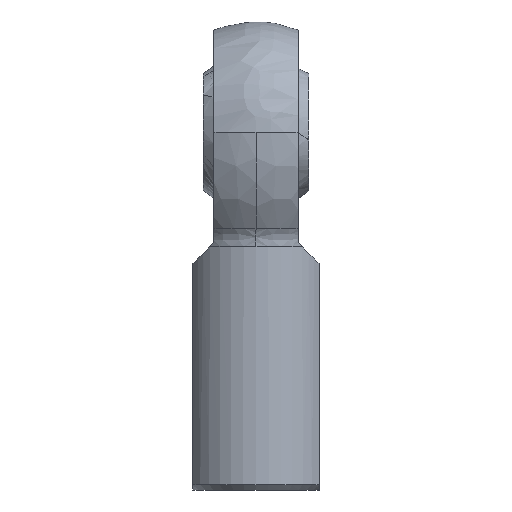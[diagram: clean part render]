
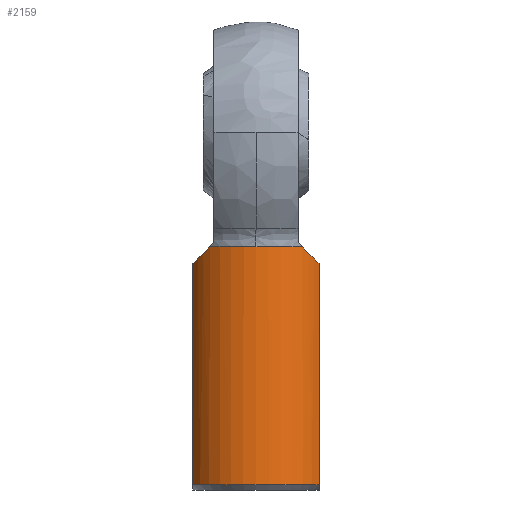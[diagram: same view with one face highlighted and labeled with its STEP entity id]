
A CAD part, left-side view. The second image highlights one B-rep face of the part: STEP entity #2159.
In plain terms, the highlighted cylindrical face has radius 11.113 mm (diameter 22.225 mm), a partial arc.
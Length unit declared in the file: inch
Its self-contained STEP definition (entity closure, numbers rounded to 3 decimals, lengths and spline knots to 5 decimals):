
#98 = CARTESIAN_POINT ( 'NONE',  ( 0., 0., 0.03 ) ) ;
#105 = EDGE_CURVE ( 'NONE', #3157, #3739, #2213, .T. ) ;
#113 = AXIS2_PLACEMENT_3D ( 'NONE', #3062, #3784, #3128 ) ;
#260 = CIRCLE ( 'NONE', #1468, 0.4375 ) ;
#379 = ORIENTED_EDGE ( 'NONE', *, *, #950, .F. ) ;
#389 = ORIENTED_EDGE ( 'NONE', *, *, #896, .T. ) ;
#469 = CARTESIAN_POINT ( 'NONE',  ( -0.22535, 0.375, 1.344 ) ) ;
#620 = VERTEX_POINT ( 'NONE', #469 ) ;
#712 = ORIENTED_EDGE ( 'NONE', *, *, #3619, .T. ) ;
#731 = EDGE_CURVE ( 'NONE', #3157, #620, #872, .T. ) ;
#769 = DIRECTION ( 'NONE',  ( 1., 0., 0. ) ) ;
#808 = CARTESIAN_POINT ( 'NONE',  ( -0.34013, 0.27516, 1.44384 ) ) ;
#812 = DIRECTION ( 'NONE',  ( 0., 0., 1. ) ) ;
#841 = AXIS2_PLACEMENT_3D ( 'NONE', #2687, #812, #769 ) ;
#872 = LINE ( 'NONE', #2460, #2681 ) ;
#896 = EDGE_CURVE ( 'NONE', #3228, #2964, #1247, .T. ) ;
#950 = EDGE_CURVE ( 'NONE', #1495, #3739, #2745, .T. ) ;
#1124 = VERTEX_POINT ( 'NONE', #808 ) ;
#1196 = CARTESIAN_POINT ( 'NONE',  ( -0.26926, 0.34861, 1.37039 ) ) ;
#1247 = CIRCLE ( 'NONE', #113, 0.4375 ) ;
#1384 = VECTOR ( 'NONE', #2533, 39.37008 ) ;
#1402 = CYLINDRICAL_SURFACE ( 'NONE', #841, 0.4375 ) ;
#1468 = AXIS2_PLACEMENT_3D ( 'NONE', #3844, #3126, #2207 ) ;
#1495 = VERTEX_POINT ( 'NONE', #2162 ) ;
#1631 = ORIENTED_EDGE ( 'NONE', *, *, #3775, .T. ) ;
#1812 = CARTESIAN_POINT ( 'NONE',  ( -0.34013, 0.27516, 1.44384 ) ) ;
#1959 = CARTESIAN_POINT ( 'NONE',  ( -0.22535, -0.375, 1.344 ) ) ;
#2144 = AXIS2_PLACEMENT_3D ( 'NONE', #98, #2653, #2284 ) ;
#2159 = ADVANCED_FACE ( 'NONE', ( #2990 ), #1402, .T. ) ;
#2162 = CARTESIAN_POINT ( 'NONE',  ( -0.22535, -0.375, 1.344 ) ) ;
#2207 = DIRECTION ( 'NONE',  ( 1., 0., 0. ) ) ;
#2213 = CIRCLE ( 'NONE', #2144, 0.4375 ) ;
#2262 = ORIENTED_EDGE ( 'NONE', *, *, #731, .F. ) ;
#2264 = CARTESIAN_POINT ( 'NONE',  ( -0.30791, -0.31499, 1.40401 ) ) ;
#2284 = DIRECTION ( 'NONE',  ( 1., 0., 0. ) ) ;
#2316 = ORIENTED_EDGE ( 'NONE', *, *, #105, .T. ) ;
#2343 = CARTESIAN_POINT ( 'NONE',  ( -0.4375, 0., 1.44384 ) ) ;
#2433 = CARTESIAN_POINT ( 'NONE',  ( -0.22535, -0.375, 0.82817 ) ) ;
#2460 = CARTESIAN_POINT ( 'NONE',  ( -0.22535, 0.375, 0.82817 ) ) ;
#2533 = DIRECTION ( 'NONE',  ( 0., 0., -1. ) ) ;
#2642 = CARTESIAN_POINT ( 'NONE',  ( -0.22535, -0.375, 0.03 ) ) ;
#2653 = DIRECTION ( 'NONE',  ( 0., 0., 1. ) ) ;
#2681 = VECTOR ( 'NONE', #3089, 39.37008 ) ;
#2687 = CARTESIAN_POINT ( 'NONE',  ( 0., 0., 0.72192 ) ) ;
#2731 =( BOUNDED_CURVE ( )  B_SPLINE_CURVE ( 3, ( #1812, #3071, #1196, #4052 ),
 .UNSPECIFIED., .F., .T. ) 
 B_SPLINE_CURVE_WITH_KNOTS ( ( 4, 4 ),
 ( 2.25099, 2.60049 ),
 .UNSPECIFIED. ) 
 CURVE ( )  GEOMETRIC_REPRESENTATION_ITEM ( )  RATIONAL_B_SPLINE_CURVE ( ( 1., 0.99, 0.99, 1. ) ) 
 REPRESENTATION_ITEM ( '' )  );
#2745 = LINE ( 'NONE', #2433, #1384 ) ;
#2860 = CARTESIAN_POINT ( 'NONE',  ( -0.34013, -0.27516, 1.44384 ) ) ;
#2945 = CARTESIAN_POINT ( 'NONE',  ( -0.26926, -0.34861, 1.37039 ) ) ;
#2964 = VERTEX_POINT ( 'NONE', #2343 ) ;
#2987 = EDGE_LOOP ( 'NONE', ( #1631, #2262, #2316, #379, #3150, #389, #712 ) ) ;
#2990 = FACE_OUTER_BOUND ( 'NONE', #2987, .T. ) ;
#3062 = CARTESIAN_POINT ( 'NONE',  ( 0., 0., 1.44384 ) ) ;
#3071 = CARTESIAN_POINT ( 'NONE',  ( -0.30791, 0.31499, 1.40401 ) ) ;
#3089 = DIRECTION ( 'NONE',  ( 0., 0., 1. ) ) ;
#3126 = DIRECTION ( 'NONE',  ( 0., 0., -1. ) ) ;
#3128 = DIRECTION ( 'NONE',  ( 1., 0., 0. ) ) ;
#3150 = ORIENTED_EDGE ( 'NONE', *, *, #3415, .T. ) ;
#3157 = VERTEX_POINT ( 'NONE', #4022 ) ;
#3228 = VERTEX_POINT ( 'NONE', #3401 ) ;
#3401 = CARTESIAN_POINT ( 'NONE',  ( -0.34013, -0.27516, 1.44384 ) ) ;
#3415 = EDGE_CURVE ( 'NONE', #1495, #3228, #3444, .T. ) ;
#3444 =( BOUNDED_CURVE ( )  B_SPLINE_CURVE ( 3, ( #1959, #2945, #2264, #2860 ),
 .UNSPECIFIED., .F., .T. ) 
 B_SPLINE_CURVE_WITH_KNOTS ( ( 4, 4 ),
 ( 3.68269, 4.03219 ),
 .UNSPECIFIED. ) 
 CURVE ( )  GEOMETRIC_REPRESENTATION_ITEM ( )  RATIONAL_B_SPLINE_CURVE ( ( 1., 0.99, 0.99, 1. ) ) 
 REPRESENTATION_ITEM ( '' )  );
#3619 = EDGE_CURVE ( 'NONE', #2964, #1124, #260, .T. ) ;
#3739 = VERTEX_POINT ( 'NONE', #2642 ) ;
#3775 = EDGE_CURVE ( 'NONE', #1124, #620, #2731, .T. ) ;
#3784 = DIRECTION ( 'NONE',  ( 0., 0., -1. ) ) ;
#3844 = CARTESIAN_POINT ( 'NONE',  ( 0., 0., 1.44384 ) ) ;
#4022 = CARTESIAN_POINT ( 'NONE',  ( -0.22535, 0.375, 0.03 ) ) ;
#4052 = CARTESIAN_POINT ( 'NONE',  ( -0.22535, 0.375, 1.344 ) ) ;
